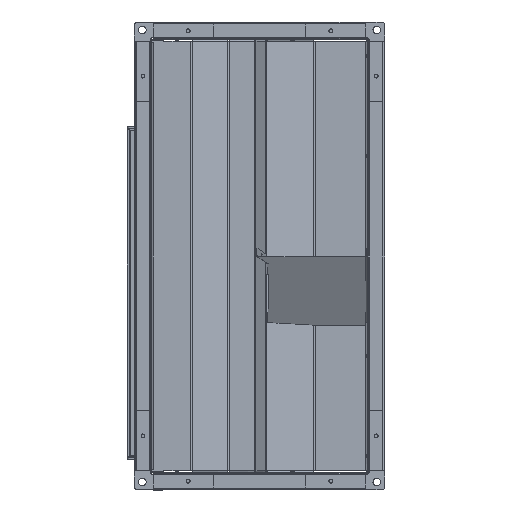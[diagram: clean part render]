
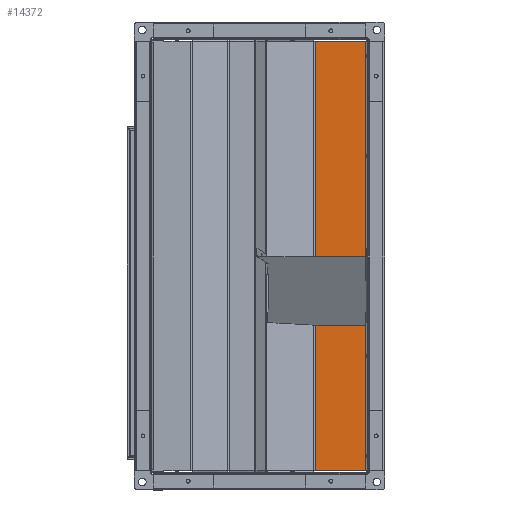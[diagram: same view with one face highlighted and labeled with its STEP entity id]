
A CAD part, left-side view. The second image highlights one B-rep face of the part: STEP entity #14372.
In plain terms, the highlighted planar face has unit normal (-1, 0, 0).
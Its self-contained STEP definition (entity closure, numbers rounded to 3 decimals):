
#784 = CARTESIAN_POINT ( 'NONE',  ( 237.6, 33.587, -74.004 ) ) ;
#1156 = CARTESIAN_POINT ( 'NONE',  ( 237.6, 0.8, -249.2 ) ) ;
#1159 = PLANE ( 'NONE',  #2385 ) ;
#1161 = DIRECTION ( 'NONE',  ( 1., 0., 0. ) ) ;
#1162 = DIRECTION ( 'NONE',  ( 0., 0., -1. ) ) ;
#2385 = AXIS2_PLACEMENT_3D ( 'NONE', #1156, #1161, #1162 ) ;
#2877 = AXIS2_PLACEMENT_3D ( 'NONE', #21287, #21288, #21289 ) ;
#2913 = AXIS2_PLACEMENT_3D ( 'NONE', #18952, #18953, #18954 ) ;
#3229 = FACE_BOUND ( 'NONE', #27885, .T. ) ;
#3239 = FACE_OUTER_BOUND ( 'NONE', #27887, .T. ) ;
#6574 = VERTEX_POINT ( 'NONE', #784 ) ;
#6662 = VERTEX_POINT ( 'NONE', #22520 ) ;
#6663 = VERTEX_POINT ( 'NONE', #22521 ) ;
#6664 = VERTEX_POINT ( 'NONE', #22522 ) ;
#6757 = VERTEX_POINT ( 'NONE', #22615 ) ;
#7101 = ORIENTED_EDGE ( 'NONE', *, *, #23236, .F. ) ;
#7102 = ORIENTED_EDGE ( 'NONE', *, *, #23882, .F. ) ;
#7103 = ORIENTED_EDGE ( 'NONE', *, *, #25128, .F. ) ;
#7104 = ORIENTED_EDGE ( 'NONE', *, *, #24741, .F. ) ;
#7107 = ORIENTED_EDGE ( 'NONE', *, *, #23891, .T. ) ;
#7108 = ORIENTED_EDGE ( 'NONE', *, *, #24785, .T. ) ;
#7872 = DIRECTION ( 'NONE',  ( 0., 0., 1. ) ) ;
#8593 = CARTESIAN_POINT ( 'NONE',  ( 237.6, 29.387, -74.004 ) ) ;
#12420 = LINE ( 'NONE', #22010, #12422 ) ;
#12422 = VECTOR ( 'NONE', #7872, 1000. ) ;
#14372 = ADVANCED_FACE ( 'NONE', ( #3229, #3239 ), #1159, .F. ) ;
#16429 = LINE ( 'NONE', #22049, #16435 ) ;
#16435 = VECTOR ( 'NONE', #22053, 1000. ) ;
#17786 = LINE ( 'NONE', #18937, #17790 ) ;
#17790 = VECTOR ( 'NONE', #18935, 1000. ) ;
#17794 = CIRCLE ( 'NONE', #2913, 2.1 ) ;
#18250 = LINE ( 'NONE', #21151, #18252 ) ;
#18252 = VECTOR ( 'NONE', #21152, 1000. ) ;
#18317 = CIRCLE ( 'NONE', #2877, 2.1 ) ;
#18935 = DIRECTION ( 'NONE',  ( 0., -1., 0. ) ) ;
#18937 = CARTESIAN_POINT ( 'NONE',  ( 237.6, 60.771, 247.2 ) ) ;
#18952 = CARTESIAN_POINT ( 'NONE',  ( 237.6, 31.487, -74.004 ) ) ;
#18953 = DIRECTION ( 'NONE',  ( 1., 0., 0. ) ) ;
#18954 = DIRECTION ( 'NONE',  ( 0., -1., 0. ) ) ;
#21151 = CARTESIAN_POINT ( 'NONE',  ( 237.6, 2.307, -247.2 ) ) ;
#21152 = DIRECTION ( 'NONE',  ( 0., 1., 0. ) ) ;
#21287 = CARTESIAN_POINT ( 'NONE',  ( 237.6, 31.487, -74.004 ) ) ;
#21288 = DIRECTION ( 'NONE',  ( 1., 0., 0. ) ) ;
#21289 = DIRECTION ( 'NONE',  ( 0., -1., 0. ) ) ;
#22010 = CARTESIAN_POINT ( 'NONE',  ( 237.6, 60.342, -249.2 ) ) ;
#22049 = CARTESIAN_POINT ( 'NONE',  ( 237.6, 2.8, 247.693 ) ) ;
#22053 = DIRECTION ( 'NONE',  ( 0., 0., -1. ) ) ;
#22520 = CARTESIAN_POINT ( 'NONE',  ( 237.6, 2.8, 247.2 ) ) ;
#22521 = CARTESIAN_POINT ( 'NONE',  ( 237.6, 2.8, -247.2 ) ) ;
#22522 = CARTESIAN_POINT ( 'NONE',  ( 237.6, 60.342, 247.2 ) ) ;
#22615 = CARTESIAN_POINT ( 'NONE',  ( 237.6, 60.342, -247.2 ) ) ;
#23236 = EDGE_CURVE ( 'NONE', #6662, #6663, #16429, .T. ) ;
#23882 = EDGE_CURVE ( 'NONE', #6664, #6662, #17786, .T. ) ;
#23891 = EDGE_CURVE ( 'NONE', #25525, #6574, #17794, .T. ) ;
#24741 = EDGE_CURVE ( 'NONE', #6663, #6757, #18250, .T. ) ;
#24785 = EDGE_CURVE ( 'NONE', #6574, #25525, #18317, .T. ) ;
#25128 = EDGE_CURVE ( 'NONE', #6757, #6664, #12420, .T. ) ;
#25525 = VERTEX_POINT ( 'NONE', #8593 ) ;
#27885 = EDGE_LOOP ( 'NONE', ( #7107, #7108 ) ) ;
#27887 = EDGE_LOOP ( 'NONE', ( #7101, #7102, #7103, #7104 ) ) ;
